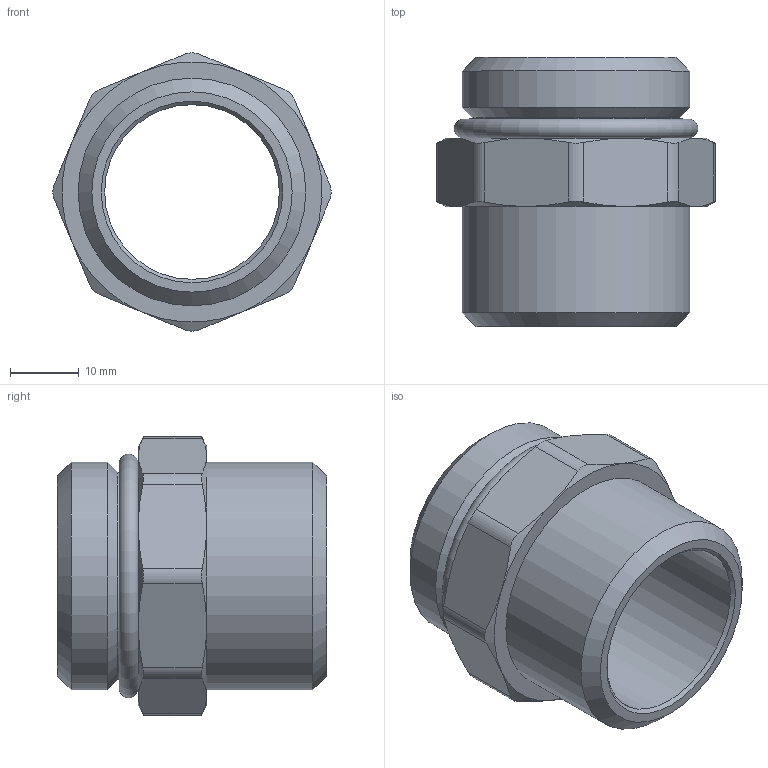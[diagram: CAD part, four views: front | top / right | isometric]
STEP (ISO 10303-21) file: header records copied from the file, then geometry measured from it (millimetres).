
FILE_DESCRIPTION(('STEP AP242'), '1');
FILE_NAME('覆.302634.085.000 捘 - VTr.584.N.0606', '', ('UNSPECIFIED'), ('UNSPECIFIED'), 'C3D Converter', 'C3D Toolkit', '');
FILE_SCHEMA(('AP242_MANAGED_MODEL_BASED_3D_ENGINEERING_MIM_LF { 1 0 10303 442 1 1 4 }'));
Length unit declared in the file: millimetre
Products named in the file (3): ВР.302634.085.000 СБ; ВР.753157.023
Assembly tree (2 placements, depth 2):
  ВР.302634.085.000 СБ
    ВР.753157.023
    (unnamed)
Bounding box: 40.64 x 39.3 x 40.64 mm (x, y, z)
Volume: 16917.5 mm3; surface area: 9524.2 mm2
Topology: 2 solids, 2 shells, 47 faces, 115 edges, 74 vertices
Faces by surface type: cone 20, plane 12, cylinder 12, torus 3
Full cylindrical faces by diameter (mm): 25.5 x1, 30 x1, 33.249 x2
Entity records: 3262 total; most frequent: CARTESIAN_POINT 2103, DIRECTION 190, ORIENTED_EDGE 184, EDGE_CURVE 92, AXIS2_PLACEMENT_3D 87, EDGE_LOOP 61, VERTEX_POINT 61, B_SPLINE_CURVE_WITH_KNOTS 49
